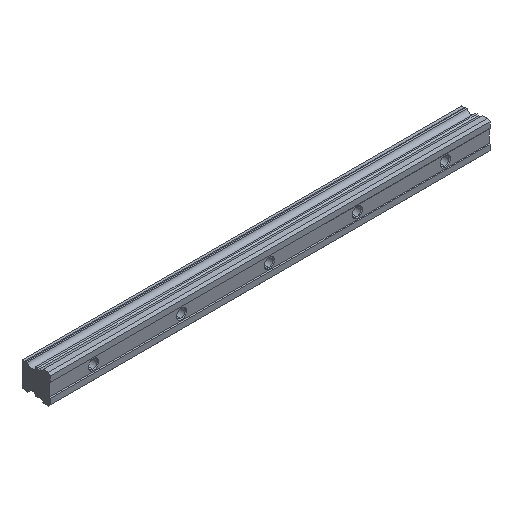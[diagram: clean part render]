
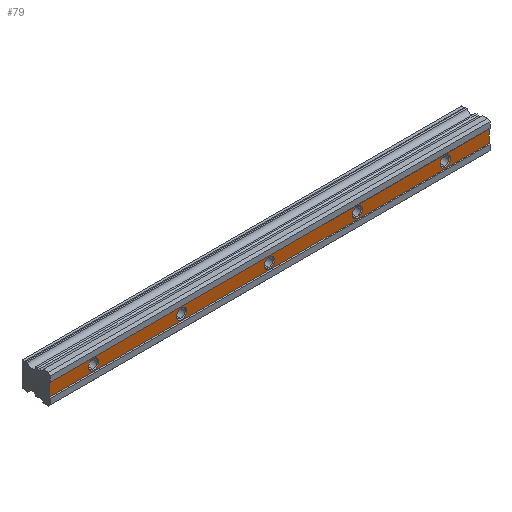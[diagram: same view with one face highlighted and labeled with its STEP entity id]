
A CAD part, isometric view. The second image highlights one B-rep face of the part: STEP entity #79.
In plain terms, the highlighted planar face has unit normal (0, -1, 0).
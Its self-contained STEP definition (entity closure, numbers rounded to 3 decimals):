
#21 = VERTEX_POINT ( 'NONE', #429 ) ;
#32 = ORIENTED_EDGE ( 'NONE', *, *, #1594, .T. ) ;
#64 = AXIS2_PLACEMENT_3D ( 'NONE', #2126, #769, #1440 ) ;
#79 = ADVANCED_FACE ( 'NONE', ( #1092, #929, #1124, #748, #440, #1288 ), #1760, .F. ) ;
#82 = ORIENTED_EDGE ( 'NONE', *, *, #1706, .T. ) ;
#85 = LINE ( 'NONE', #579, #420 ) ;
#100 = DIRECTION ( 'NONE',  ( 0., 0., 1. ) ) ;
#189 = CIRCLE ( 'NONE', #544, 3.5 ) ;
#194 = CIRCLE ( 'NONE', #1989, 3.5 ) ;
#208 = CARTESIAN_POINT ( 'NONE',  ( 300., 0.5, -4.25 ) ) ;
#209 = EDGE_LOOP ( 'NONE', ( #497, #1220, #498, #1482 ) ) ;
#241 = VECTOR ( 'NONE', #539, 1000. ) ;
#242 = VERTEX_POINT ( 'NONE', #831 ) ;
#256 = CARTESIAN_POINT ( 'NONE',  ( 90., 0.5, -3.5 ) ) ;
#267 = EDGE_CURVE ( 'NONE', #1552, #1602, #788, .T. ) ;
#285 = EDGE_CURVE ( 'NONE', #1913, #242, #189, .T. ) ;
#296 = EDGE_CURVE ( 'NONE', #419, #1766, #1426, .T. ) ;
#334 = CIRCLE ( 'NONE', #1080, 3.5 ) ;
#360 = VERTEX_POINT ( 'NONE', #2045 ) ;
#403 = CARTESIAN_POINT ( 'NONE',  ( 300., 0.5, 4.25 ) ) ;
#408 = VERTEX_POINT ( 'NONE', #256 ) ;
#419 = VERTEX_POINT ( 'NONE', #1274 ) ;
#420 = VECTOR ( 'NONE', #1876, 1000. ) ;
#429 = CARTESIAN_POINT ( 'NONE',  ( 210., 0.5, 3.5 ) ) ;
#440 = FACE_BOUND ( 'NONE', #1613, .T. ) ;
#465 = EDGE_LOOP ( 'NONE', ( #1883, #580 ) ) ;
#487 = CIRCLE ( 'NONE', #2133, 3.5 ) ;
#494 = DIRECTION ( 'NONE',  ( 0., 0., 1. ) ) ;
#497 = ORIENTED_EDGE ( 'NONE', *, *, #1681, .T. ) ;
#498 = ORIENTED_EDGE ( 'NONE', *, *, #267, .F. ) ;
#512 = VECTOR ( 'NONE', #1653, 1000. ) ;
#539 = DIRECTION ( 'NONE',  ( -1., 0., 0. ) ) ;
#544 = AXIS2_PLACEMENT_3D ( 'NONE', #1517, #1022, #1036 ) ;
#579 = CARTESIAN_POINT ( 'NONE',  ( 300., 0.5, -4.25 ) ) ;
#580 = ORIENTED_EDGE ( 'NONE', *, *, #1902, .T. ) ;
#591 = CARTESIAN_POINT ( 'NONE',  ( 30., 0.5, 0. ) ) ;
#609 = ORIENTED_EDGE ( 'NONE', *, *, #1273, .T. ) ;
#624 = AXIS2_PLACEMENT_3D ( 'NONE', #2142, #962, #1152 ) ;
#639 = ORIENTED_EDGE ( 'NONE', *, *, #732, .T. ) ;
#665 = CARTESIAN_POINT ( 'NONE',  ( 300., 0.5, 4.25 ) ) ;
#678 = AXIS2_PLACEMENT_3D ( 'NONE', #1914, #949, #1618 ) ;
#685 = AXIS2_PLACEMENT_3D ( 'NONE', #1575, #2041, #1202 ) ;
#732 = EDGE_CURVE ( 'NONE', #242, #1913, #1526, .T. ) ;
#748 = FACE_BOUND ( 'NONE', #1365, .T. ) ;
#750 = CARTESIAN_POINT ( 'NONE',  ( 30., 0.5, -3.5 ) ) ;
#757 = AXIS2_PLACEMENT_3D ( 'NONE', #1388, #1532, #882 ) ;
#766 = VERTEX_POINT ( 'NONE', #1912 ) ;
#769 = DIRECTION ( 'NONE',  ( 0., 1., 0. ) ) ;
#788 = LINE ( 'NONE', #665, #512 ) ;
#792 = EDGE_LOOP ( 'NONE', ( #2124, #639 ) ) ;
#831 = CARTESIAN_POINT ( 'NONE',  ( 270., 0.5, 3.5 ) ) ;
#854 = DIRECTION ( 'NONE',  ( 0., 1., 0. ) ) ;
#855 = CIRCLE ( 'NONE', #1427, 3.5 ) ;
#863 = ORIENTED_EDGE ( 'NONE', *, *, #892, .T. ) ;
#882 = DIRECTION ( 'NONE',  ( 0., 0., 1. ) ) ;
#892 = EDGE_CURVE ( 'NONE', #766, #21, #487, .T. ) ;
#908 = DIRECTION ( 'NONE',  ( 0., 1., 0. ) ) ;
#922 = DIRECTION ( 'NONE',  ( 0., 1., 0. ) ) ;
#929 = FACE_BOUND ( 'NONE', #465, .T. ) ;
#949 = DIRECTION ( 'NONE',  ( 0., 1., 0. ) ) ;
#962 = DIRECTION ( 'NONE',  ( 0., 1., 0. ) ) ;
#1007 = DIRECTION ( 'NONE',  ( 0., 0., 1. ) ) ;
#1022 = DIRECTION ( 'NONE',  ( 0., 1., 0. ) ) ;
#1030 = AXIS2_PLACEMENT_3D ( 'NONE', #2149, #1358, #1007 ) ;
#1036 = DIRECTION ( 'NONE',  ( 0., 0., 1. ) ) ;
#1067 = CARTESIAN_POINT ( 'NONE',  ( 0., 0.5, 4.25 ) ) ;
#1069 = ORIENTED_EDGE ( 'NONE', *, *, #296, .T. ) ;
#1080 = AXIS2_PLACEMENT_3D ( 'NONE', #1246, #908, #1752 ) ;
#1085 = LINE ( 'NONE', #1937, #1173 ) ;
#1087 = VERTEX_POINT ( 'NONE', #1564 ) ;
#1092 = FACE_BOUND ( 'NONE', #1344, .T. ) ;
#1124 = FACE_OUTER_BOUND ( 'NONE', #209, .T. ) ;
#1152 = DIRECTION ( 'NONE',  ( 0., 0., 1. ) ) ;
#1173 = VECTOR ( 'NONE', #1234, 1000. ) ;
#1178 = CARTESIAN_POINT ( 'NONE',  ( 210., 0.5, 0. ) ) ;
#1180 = CIRCLE ( 'NONE', #64, 3.5 ) ;
#1202 = DIRECTION ( 'NONE',  ( 0., 0., 1. ) ) ;
#1216 = VERTEX_POINT ( 'NONE', #1601 ) ;
#1219 = LINE ( 'NONE', #2052, #241 ) ;
#1220 = ORIENTED_EDGE ( 'NONE', *, *, #1483, .F. ) ;
#1234 = DIRECTION ( 'NONE',  ( 0., 0., -1. ) ) ;
#1246 = CARTESIAN_POINT ( 'NONE',  ( 90., 0.5, 0. ) ) ;
#1273 = EDGE_CURVE ( 'NONE', #360, #408, #1180, .T. ) ;
#1274 = CARTESIAN_POINT ( 'NONE',  ( 150., 0.5, -3.5 ) ) ;
#1288 = FACE_BOUND ( 'NONE', #792, .T. ) ;
#1344 = EDGE_LOOP ( 'NONE', ( #1399, #609 ) ) ;
#1358 = DIRECTION ( 'NONE',  ( 0., 1., 0. ) ) ;
#1365 = EDGE_LOOP ( 'NONE', ( #1069, #82 ) ) ;
#1388 = CARTESIAN_POINT ( 'NONE',  ( 150., 0.5, 0. ) ) ;
#1399 = ORIENTED_EDGE ( 'NONE', *, *, #1671, .T. ) ;
#1426 = CIRCLE ( 'NONE', #757, 3.5 ) ;
#1427 = AXIS2_PLACEMENT_3D ( 'NONE', #2098, #922, #100 ) ;
#1440 = DIRECTION ( 'NONE',  ( 0., 0., 1. ) ) ;
#1466 = CIRCLE ( 'NONE', #685, 3.5 ) ;
#1482 = ORIENTED_EDGE ( 'NONE', *, *, #1507, .T. ) ;
#1483 = EDGE_CURVE ( 'NONE', #1602, #1216, #85, .T. ) ;
#1495 = CARTESIAN_POINT ( 'NONE',  ( 270., 0.5, -3.5 ) ) ;
#1502 = VERTEX_POINT ( 'NONE', #750 ) ;
#1507 = EDGE_CURVE ( 'NONE', #1552, #1640, #1219, .T. ) ;
#1517 = CARTESIAN_POINT ( 'NONE',  ( 270., 0.5, 0. ) ) ;
#1526 = CIRCLE ( 'NONE', #624, 3.5 ) ;
#1532 = DIRECTION ( 'NONE',  ( 0., 1., 0. ) ) ;
#1552 = VERTEX_POINT ( 'NONE', #403 ) ;
#1564 = CARTESIAN_POINT ( 'NONE',  ( 30., 0.5, 3.5 ) ) ;
#1575 = CARTESIAN_POINT ( 'NONE',  ( 210., 0.5, 0. ) ) ;
#1594 = EDGE_CURVE ( 'NONE', #21, #766, #1466, .T. ) ;
#1601 = CARTESIAN_POINT ( 'NONE',  ( 0., 0.5, -4.25 ) ) ;
#1602 = VERTEX_POINT ( 'NONE', #208 ) ;
#1613 = EDGE_LOOP ( 'NONE', ( #863, #32 ) ) ;
#1618 = DIRECTION ( 'NONE',  ( 0., 0., 1. ) ) ;
#1640 = VERTEX_POINT ( 'NONE', #1067 ) ;
#1653 = DIRECTION ( 'NONE',  ( 0., 0., -1. ) ) ;
#1671 = EDGE_CURVE ( 'NONE', #408, #360, #334, .T. ) ;
#1681 = EDGE_CURVE ( 'NONE', #1640, #1216, #1085, .T. ) ;
#1706 = EDGE_CURVE ( 'NONE', #1766, #419, #855, .T. ) ;
#1749 = DIRECTION ( 'NONE',  ( 0., 1., 0. ) ) ;
#1752 = DIRECTION ( 'NONE',  ( 0., 0., 1. ) ) ;
#1760 = PLANE ( 'NONE',  #678 ) ;
#1766 = VERTEX_POINT ( 'NONE', #2125 ) ;
#1876 = DIRECTION ( 'NONE',  ( -1., 0., 0. ) ) ;
#1883 = ORIENTED_EDGE ( 'NONE', *, *, #2134, .T. ) ;
#1902 = EDGE_CURVE ( 'NONE', #1087, #1502, #1986, .T. ) ;
#1912 = CARTESIAN_POINT ( 'NONE',  ( 210., 0.5, -3.5 ) ) ;
#1913 = VERTEX_POINT ( 'NONE', #1495 ) ;
#1914 = CARTESIAN_POINT ( 'NONE',  ( 300., 0.5, 4.25 ) ) ;
#1933 = DIRECTION ( 'NONE',  ( 0., 0., 1. ) ) ;
#1937 = CARTESIAN_POINT ( 'NONE',  ( 0., 0.5, 4.25 ) ) ;
#1986 = CIRCLE ( 'NONE', #1030, 3.5 ) ;
#1989 = AXIS2_PLACEMENT_3D ( 'NONE', #591, #1749, #1933 ) ;
#2041 = DIRECTION ( 'NONE',  ( 0., 1., 0. ) ) ;
#2045 = CARTESIAN_POINT ( 'NONE',  ( 90., 0.5, 3.5 ) ) ;
#2052 = CARTESIAN_POINT ( 'NONE',  ( 300., 0.5, 4.25 ) ) ;
#2098 = CARTESIAN_POINT ( 'NONE',  ( 150., 0.5, 0. ) ) ;
#2124 = ORIENTED_EDGE ( 'NONE', *, *, #285, .T. ) ;
#2125 = CARTESIAN_POINT ( 'NONE',  ( 150., 0.5, 3.5 ) ) ;
#2126 = CARTESIAN_POINT ( 'NONE',  ( 90., 0.5, 0. ) ) ;
#2133 = AXIS2_PLACEMENT_3D ( 'NONE', #1178, #854, #494 ) ;
#2134 = EDGE_CURVE ( 'NONE', #1502, #1087, #194, .T. ) ;
#2142 = CARTESIAN_POINT ( 'NONE',  ( 270., 0.5, 0. ) ) ;
#2149 = CARTESIAN_POINT ( 'NONE',  ( 30., 0.5, 0. ) ) ;
